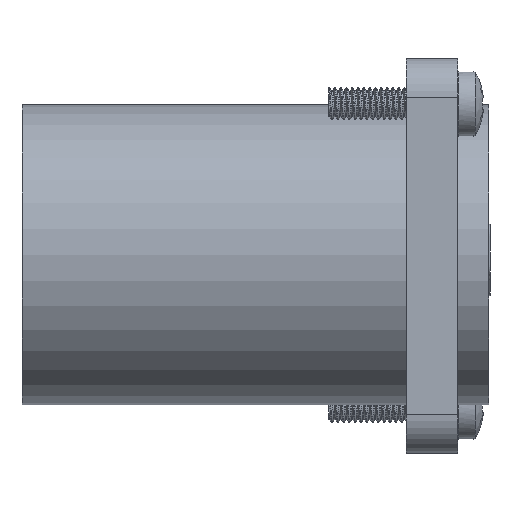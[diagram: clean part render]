
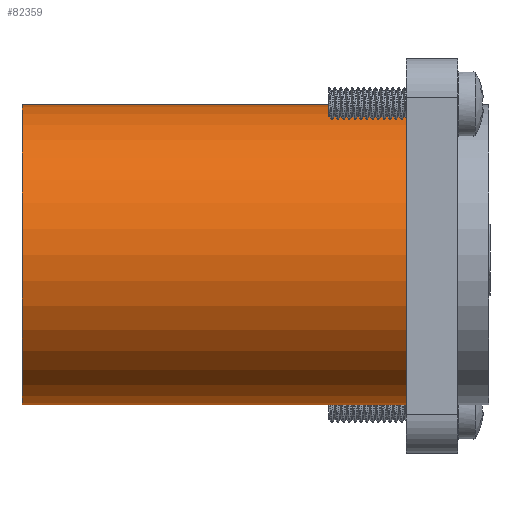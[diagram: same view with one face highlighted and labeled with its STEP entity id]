
A CAD part, left-side view. The second image highlights one B-rep face of the part: STEP entity #82359.
In plain terms, the highlighted cylindrical face has radius 11.65 mm (diameter 23.3 mm), a full revolution.
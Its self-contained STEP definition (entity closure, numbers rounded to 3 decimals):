
#82359 = ADVANCED_FACE('',(#82360),#82387,.T.);
#82360 = FACE_BOUND('',#82361,.F.);
#82361 = EDGE_LOOP('',(#82362,#82371,#82379,#82386));
#82362 = ORIENTED_EDGE('',*,*,#82363,.F.);
#82363 = EDGE_CURVE('',#82364,#82364,#82366,.T.);
#82364 = VERTEX_POINT('',#82365);
#82365 = CARTESIAN_POINT('',(11.65,9.8,0.));
#82366 = CIRCLE('',#82367,11.65);
#82367 = AXIS2_PLACEMENT_3D('',#82368,#82369,#82370);
#82368 = CARTESIAN_POINT('',(0.,9.8,0.));
#82369 = DIRECTION('',(0.,-1.,0.));
#82370 = DIRECTION('',(1.,0.,0.));
#82371 = ORIENTED_EDGE('',*,*,#82372,.T.);
#82372 = EDGE_CURVE('',#82364,#82373,#82375,.T.);
#82373 = VERTEX_POINT('',#82374);
#82374 = CARTESIAN_POINT('',(11.65,-20.,0.));
#82375 = LINE('',#82376,#82377);
#82376 = CARTESIAN_POINT('',(11.65,9.8,0.));
#82377 = VECTOR('',#82378,1.);
#82378 = DIRECTION('',(0.,-1.,0.));
#82379 = ORIENTED_EDGE('',*,*,#82380,.F.);
#82380 = EDGE_CURVE('',#82373,#82373,#82381,.T.);
#82381 = CIRCLE('',#82382,11.65);
#82382 = AXIS2_PLACEMENT_3D('',#82383,#82384,#82385);
#82383 = CARTESIAN_POINT('',(0.,-20.,0.));
#82384 = DIRECTION('',(0.,1.,0.));
#82385 = DIRECTION('',(1.,0.,0.));
#82386 = ORIENTED_EDGE('',*,*,#82372,.F.);
#82387 = CYLINDRICAL_SURFACE('',#82388,11.65);
#82388 = AXIS2_PLACEMENT_3D('',#82389,#82390,#82391);
#82389 = CARTESIAN_POINT('',(0.,9.8,0.));
#82390 = DIRECTION('',(-0.,1.,-0.));
#82391 = DIRECTION('',(1.,0.,0.));
